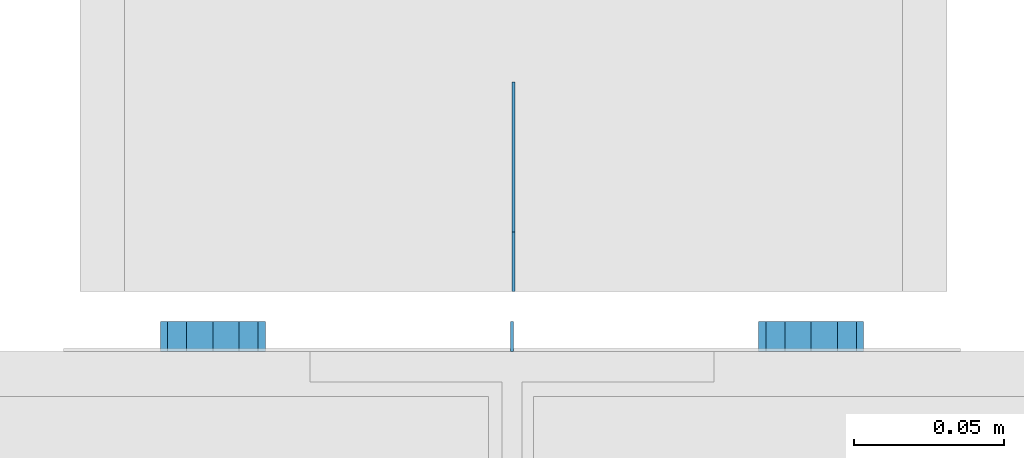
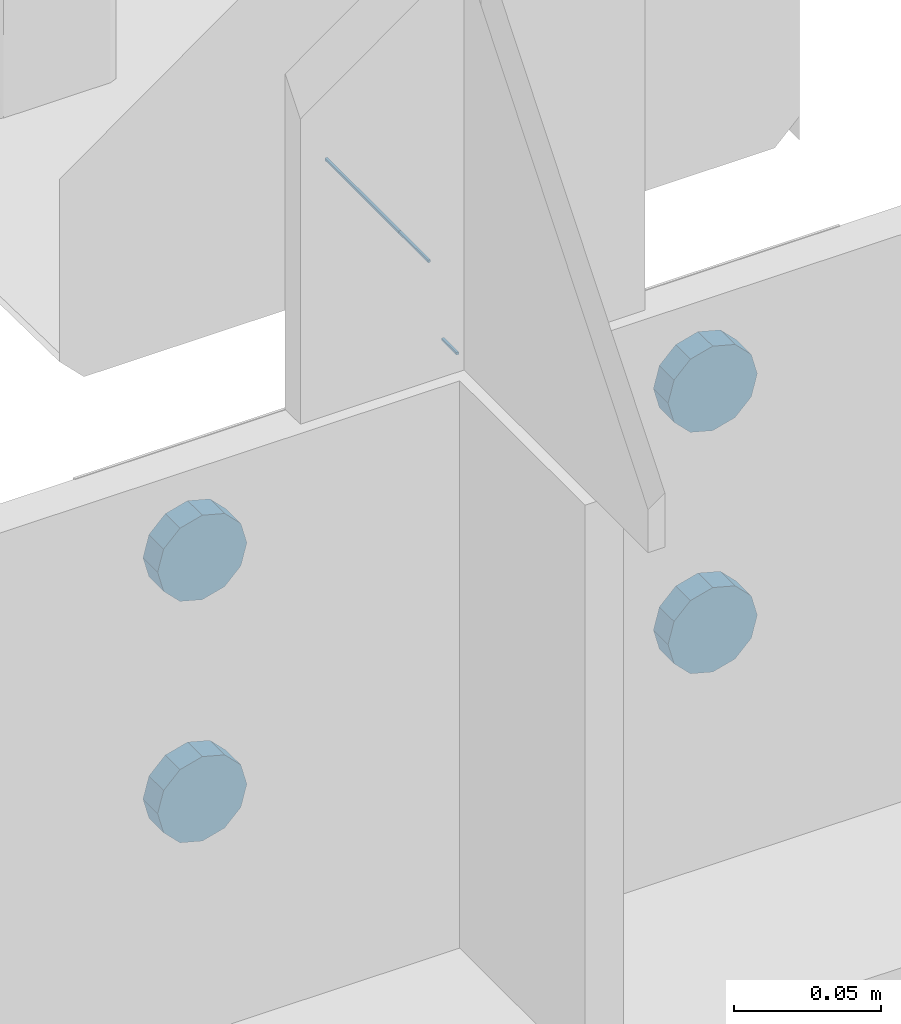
# One storey, part 66 of 186: 7 beams.
"""IFC4X3_ADD2 building model written with IfcOpenShell, lengths in millimetres."""

import ifcopenshell
import ifcopenshell.guid

model = None  # the IFC model being written
_history = None  # IfcOwnerHistory: only IFC2X3 demands one
_inside = {}  # id of a spatial element -> (the spatial element, [elements in it])
_under = {}  # id of a project, library or spatial element -> (it, [spatial elements below it])
_declared = {}  # id of a project -> (the project, [libraries it declares])
_typed = {}  # id of a type object -> (the type object, [elements of that type])
_made_of = {}  # id of a material, layer set ... -> (it, [elements and type objects made of it])


def new_model(schema):
    """Start an empty IFC model of exactly this schema.

    Asked for "IFC4X3", IfcOpenShell would pick the latest addendum, in which some entities
    have other attributes; the version numbers below select the first issue.
    IFC2X3 requires an IfcOwnerHistory on every rooted entity: one is made here for all.
    """
    global model, _history
    if schema == "IFC4X3":
        model = ifcopenshell.file(schema_version=(4, 3, 0, 0))
    else:
        model = ifcopenshell.file(schema=schema)
    _inside.clear()
    _under.clear()
    _declared.clear()
    _typed.clear()
    _made_of.clear()
    _history = None
    if model.schema == "IFC2X3":
        org = make("IfcOrganization", Name="unknown")
        user = make(
            "IfcPersonAndOrganization",
            ThePerson=make("IfcPerson", FamilyName="unknown"),
            TheOrganization=org,
        )
        app = make(
            "IfcApplication",
            ApplicationDeveloper=org,
            Version="unknown",
            ApplicationFullName="unknown",
            ApplicationIdentifier="unknown",
        )
        _history = make(
            "IfcOwnerHistory",
            OwningUser=user,
            OwningApplication=app,
            ChangeAction="ADDED",
            CreationDate=0,
        )
    return model


def make(cls, **values):
    """One entity of the class cls with the attributes given. An attribute that is None is left unset."""
    return model.create_entity(
        cls, **{name: value for name, value in values.items() if value is not None}
    )


def rooted(cls, **values):
    """An entity with a GlobalId (a new one), such as an element, a storey or a relation."""
    return make(cls, GlobalId=ifcopenshell.guid.new(), OwnerHistory=_history, **values)


def si_unit(unit_type, name, prefix=None):
    """IfcSIUnit, for example si_unit("LENGTHUNIT", "METRE", prefix="MILLI")."""
    return make("IfcSIUnit", UnitType=unit_type, Prefix=prefix, Name=name)


def assignment(units):
    """IfcUnitAssignment: the units of a project."""
    return None if units is None else make("IfcUnitAssignment", Units=units)


def point(xyz):
    """IfcCartesianPoint."""
    return None if xyz is None else make("IfcCartesianPoint", Coordinates=xyz)


def direction(xyz):
    """IfcDirection."""
    return None if xyz is None else make("IfcDirection", DirectionRatios=xyz)


def frame(location, z_axis=None, x_axis=None):
    """IfcAxis2Placement3D, a coordinate frame: its origin and axes. An axis left out is left unset."""
    return make(
        "IfcAxis2Placement3D",
        Location=point(location),
        Axis=direction(z_axis),
        RefDirection=direction(x_axis),
    )


def frame_2d(location, x_axis=None):
    """IfcAxis2Placement2D, a coordinate frame in the plane: its origin and x axis."""
    return make(
        "IfcAxis2Placement2D", Location=point(location), RefDirection=direction(x_axis)
    )


def origin_with_axes():
    """The frame at (0, 0, 0) with the z axis (0, 0, 1) and the x axis (1, 0, 0) written out."""
    return frame((0.0, 0.0, 0.0), z_axis=(0.0, 0.0, 1.0), x_axis=(1.0, 0.0, 0.0))


def place(relative_to, where):
    """IfcLocalPlacement: puts the frame where relative to a parent placement (None: the world)."""
    return make(
        "IfcLocalPlacement", PlacementRelTo=relative_to, RelativePlacement=where
    )


def context(
    kind, dimensions, precision=None, world=None, true_north=None, identifier=None
):
    """IfcGeometricRepresentationContext, for example the 3D "Model" context."""
    return make(
        "IfcGeometricRepresentationContext",
        ContextIdentifier=identifier,
        ContextType=kind,
        CoordinateSpaceDimension=dimensions,
        Precision=precision,
        WorldCoordinateSystem=world,
        TrueNorth=true_north,
    )


def subcontext(parent, identifier, kind, view, scale=None):
    """IfcGeometricRepresentationSubContext, for example "Body" below "Model"."""
    return make(
        "IfcGeometricRepresentationSubContext",
        ContextIdentifier=identifier,
        ContextType=kind,
        ParentContext=parent,
        TargetScale=scale,
        TargetView=view,
    )


def project(units=None, contexts=None):
    """IfcProject with its units and contexts."""
    return rooted(
        "IfcProject",
        Name="project",
        RepresentationContexts=contexts,
        UnitsInContext=assignment(units),
    )


def spatial(cls, under=None, at=None, **own):
    """A site, building, storey or space (cls), placed at a placement, below another one or the project."""
    s = rooted(cls, ObjectPlacement=at, **own)
    if under is not None:
        _under.setdefault(under.id(), (under, []))[1].append(s)
    return s


def point_list(points):
    """IfcCartesianPointList2D or 3D."""
    cls = (
        "IfcCartesianPointList2D" if len(points[0]) == 2 else "IfcCartesianPointList3D"
    )
    return make(cls, CoordList=points)


def indexed_curve(points, segments=None, self_intersect=None):
    """IfcIndexedPolyCurve: lines and arcs through numbered points (the first is 1)."""
    return make(
        "IfcIndexedPolyCurve",
        Points=point_list(points),
        Segments=segments,
        SelfIntersect=self_intersect,
    )


def profile(cls, at=None, kind="AREA", **sizes):
    """A parametric profile (cls). Its sizes go by their IFC names, for example OverallWidth=200.0."""
    return make(cls, ProfileType=kind, Position=at, **sizes)


def rectangle(**sizes):
    """IfcRectangleProfileDef."""
    return profile("IfcRectangleProfileDef", **sizes)


def outline(outer, holes=None, kind="AREA"):
    """IfcArbitraryClosedProfileDef: a profile drawn as a closed curve; with holes, ...WithVoids."""
    if holes is None:
        return make("IfcArbitraryClosedProfileDef", ProfileType=kind, OuterCurve=outer)
    return make(
        "IfcArbitraryProfileDefWithVoids",
        ProfileType=kind,
        OuterCurve=outer,
        InnerCurves=holes,
    )


def extrude(swept, where, along, depth):
    """IfcExtrudedAreaSolid: the profile swept, set in the frame where, extruded along a direction by depth."""
    return make(
        "IfcExtrudedAreaSolid",
        SweptArea=swept,
        Position=where,
        ExtrudedDirection=direction(along),
        Depth=depth,
    )


def shape(context_of_items, identifier, shape_type, items):
    """IfcShapeRepresentation: the items that make up one representation, for example the "Body"."""
    return make(
        "IfcShapeRepresentation",
        ContextOfItems=context_of_items,
        RepresentationIdentifier=identifier,
        RepresentationType=shape_type,
        Items=items,
    )


def material(Name=None, Category=None):
    """IfcMaterial."""
    return make("IfcMaterial", Name=Name, Category=Category)


def made_of(thing, what):
    """Note that an element or type object is made of a material, layer set ...; save() writes the relation."""
    if what is not None:
        _made_of.setdefault(what.id(), (what, []))[1].append(thing)
    return thing


def element(
    cls,
    number,
    at=None,
    inside=None,
    cuts=None,
    type_object=None,
    material=None,
    context=None,
    identifier="Body",
    shape_type=None,
    held_by="IfcProductDefinitionShape",
    body=None,
    shapes=None,
    **own,
):
    """One element of the class cls, such as IfcWall. Its Tag is "e" and its number.

    at: its placement. inside: the storey or other place that contains it. cuts: it is an
    opening in that element (IfcRelVoidsElement). A single representation is given by context,
    identifier, shape_type and body (its items); several are given by shapes. held_by: the class
    of the entity that holds the representations. save() writes the other relations.
    """
    e = rooted(cls, Tag="e%d" % number, ObjectPlacement=at, **own)
    if body is not None:
        shapes = [shape(context, identifier, shape_type, body)]
    if shapes is not None:
        e.Representation = make(held_by, Representations=shapes)
    if inside is not None:
        _inside.setdefault(inside.id(), (inside, []))[1].append(e)
    if cuts is not None:
        rooted(
            "IfcRelVoidsElement", RelatingBuildingElement=cuts, RelatedOpeningElement=e
        )
    if type_object is not None:
        _typed.setdefault(type_object.id(), (type_object, []))[1].append(e)
    return made_of(e, material)


def aggregate(whole, parts):
    """IfcRelAggregates: a whole, such as a stair, and the parts it consists of."""
    return rooted("IfcRelAggregates", RelatingObject=whole, RelatedObjects=parts)


def save(model, path):
    """Write the relations noted so far, then the file.

    IfcRelAggregates (storeys below a building ...), IfcRelContainedInSpatialStructure (elements
    in a storey), IfcRelDefinesByType, IfcRelAssociatesMaterial and IfcRelDeclares: one each for
    every whole, place, type object, material and project.
    """
    for whole, parts in _under.values():
        aggregate(whole, parts)
    for where, things in _inside.values():
        rooted(
            "IfcRelContainedInSpatialStructure",
            RelatedElements=things,
            RelatingStructure=where,
        )
    for kind, things in _typed.values():
        rooted("IfcRelDefinesByType", RelatedObjects=things, RelatingType=kind)
    for what, things in _made_of.values():
        rooted("IfcRelAssociatesMaterial", RelatedObjects=things, RelatingMaterial=what)
    for by, libraries in _declared.values():
        rooted("IfcRelDeclares", RelatingContext=by, RelatedDefinitions=libraries)
    model.write(path)


model = new_model("IFC4X3_ADD2")

# Units and contexts
model_context = context("Model", 3, precision=1e-05, world=origin_with_axes(), true_north=direction((0.0, 1.0)))
body_context = subcontext(model_context, "Body", "Model", "MODEL_VIEW")
ifc_project = project(units=[si_unit("LENGTHUNIT", "METRE", prefix="MILLI"), si_unit("AREAUNIT", "SQUARE_METRE"), si_unit("VOLUMEUNIT", "CUBIC_METRE"), si_unit("PLANEANGLEUNIT", "RADIAN"), si_unit("TIMEUNIT", "SECOND"), si_unit("MASSUNIT", "GRAM")], contexts=[model_context])

# Site, building, storey
site_placement = place(None, origin_with_axes())
site = spatial("IfcSite", under=ifc_project, at=site_placement, Name="Site", CompositionType="ELEMENT")
building_placement = place(site_placement, origin_with_axes())
building = spatial("IfcBuilding", under=site, at=building_placement, Name="IFC Building Story")
storey_placement = place(building_placement, frame((0.0, 0.0, 4370.0), z_axis=(0.0, 0.0, 1.0), x_axis=(1.0, 0.0, 0.0)))
storey = spatial("IfcBuildingStorey", under=building, at=storey_placement, Name="ETAGE 10 (1)", Elevation=4370.0)

# Beams
ifc_material_1 = material(Name="STEEL/Accessory_invisible")
beam_1_placement = place(storey_placement, frame((27755.1908896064, 5.00106811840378, 4079.500419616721), z_axis=(1.0, 0.0, 0.0), x_axis=(0.0, 0.0, -1.0)))
element("IfcBeam", 1, at=beam_1_placement, inside=storey, material=ifc_material_1, Name="ZW1", ObjectType="1*1 9", context=body_context, shape_type="SweptSolid", body=[
    extrude(rectangle(XDim=0.9999999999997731, YDim=10.0, at=frame_2d((0.0, 5.95523630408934e-12), x_axis=(1.0, 0.0))), origin_with_axes(), (0.0, 0.0, 1.0), 1.0),
])
beam_2_placement = place(storey_placement, frame((27755.689, 65.00024835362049, 4105.40274340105), z_axis=(1.0, 0.0, 0.0), x_axis=(0.0, 0.0, -1.0)))
element("IfcBeam", 2, at=beam_2_placement, inside=storey, material=ifc_material_1, Name="ZW1", ObjectType="1*1 14", context=body_context, shape_type="SweptSolid", body=[
    extrude(rectangle(XDim=0.9999999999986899, YDim=50.0, at=frame_2d((0.0, 5.95523630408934e-12), x_axis=(1.0, 0.0))), origin_with_axes(), (0.0, 0.0, 1.0), 1.0),
])
ifc_material_2 = material(Name="STEEL/Accessory_invisible 261")
beam_3_placement = place(storey_placement, frame((27755.689, 30.0002483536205, 4105.40274340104), z_axis=(1.0, 0.0, 0.0), x_axis=(0.0, 0.0, -1.0)))
element("IfcBeam", 3, at=beam_3_placement, inside=storey, material=ifc_material_2, Name="PR10", ObjectType="1*1 13", context=body_context, shape_type="SweptSolid", body=[
    extrude(rectangle(XDim=0.9999999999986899, YDim=20.0, at=frame_2d((0.0, 5.95523630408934e-12), x_axis=(1.0, 0.0))), origin_with_axes(), (0.0, 0.0, 1.0), 1.0),
])
ifc_material_3 = material(Name="STEEL/Accessory_Hole_Concrete 8616")
for number, where, z_axis, x_axis, name in (
    (4, (27655.69088960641, 10.0010681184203, 4030.000419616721), (0.0, -1.0, 0.0), (-0.2588190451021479, 0.0, 0.9659258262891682), "ZW9"),
    (5, (27855.69088960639, 10.0010681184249, 4030.000419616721), (0.0, -1.0, 0.0), (-0.2588190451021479, 0.0, 0.9659258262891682), "ZW9"),
    (6, (27855.69088960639, 10.0010681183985, 3930.00041961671), (0.0, -1.0, 0.0), (-0.2588190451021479, 0.0, 0.9659258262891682), "ZW9"),
    (7, (27655.6908896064, 10.0010681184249, 3930.000419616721), (0.0, -1.0, 0.0), (-0.2588190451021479, 0.0, 0.9659258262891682), "ZW9"),
):
    element("IfcBeam", number, at=place(storey_placement, frame(where, z_axis=z_axis, x_axis=x_axis)), inside=storey, material=ifc_material_3, Name=name, ObjectType="D35", context=body_context, shape_type="SweptSolid", body=[
        extrude(outline(indexed_curve([(-12.37436867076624, -12.37436867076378), (-16.90370196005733, -4.529333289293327), (-16.90370196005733, 4.529333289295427), (-12.37436867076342, 12.37436867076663), (-4.52933328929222, 16.90370196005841), (4.529333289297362, 16.90370196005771), (12.374368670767, 12.37436867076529), (16.90370196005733, 4.529333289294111), (16.90370196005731, -4.529333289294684), (12.37436867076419, -12.37436867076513), (4.529333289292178, -16.90370196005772), (-4.529333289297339, -16.90370196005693), (-12.37436867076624, -12.37436867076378)])), origin_with_axes(), (0.0, 0.0, 1.0), 10.0),
    ])

save(model, "model.ifc")
